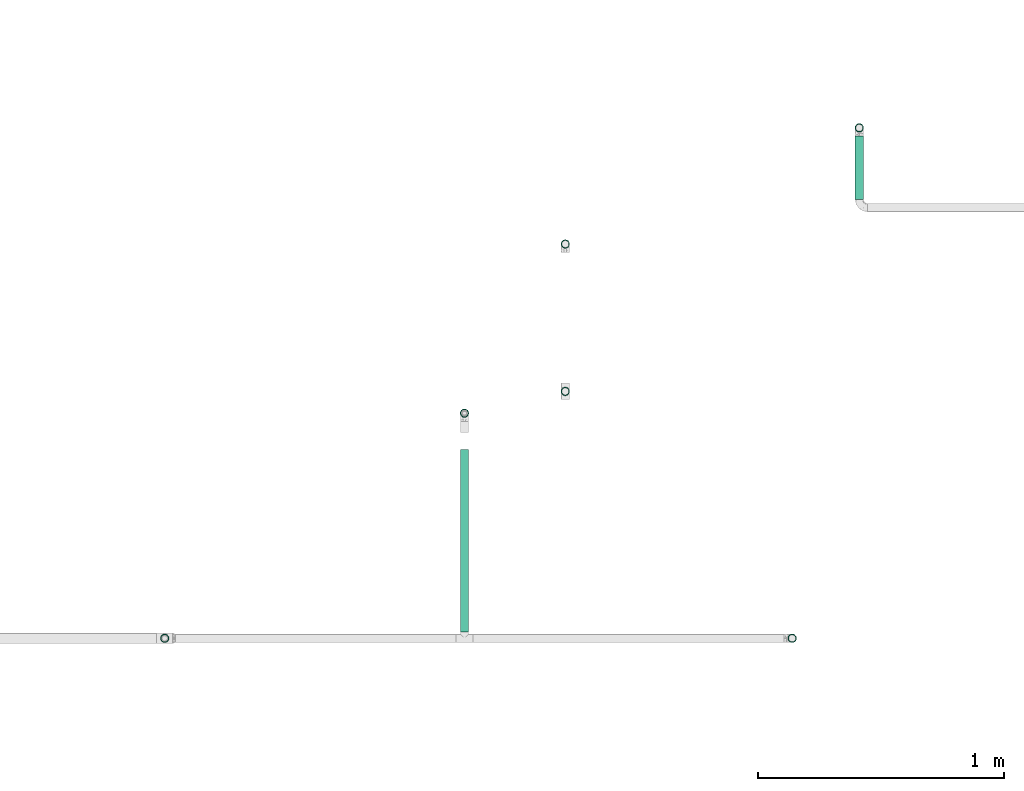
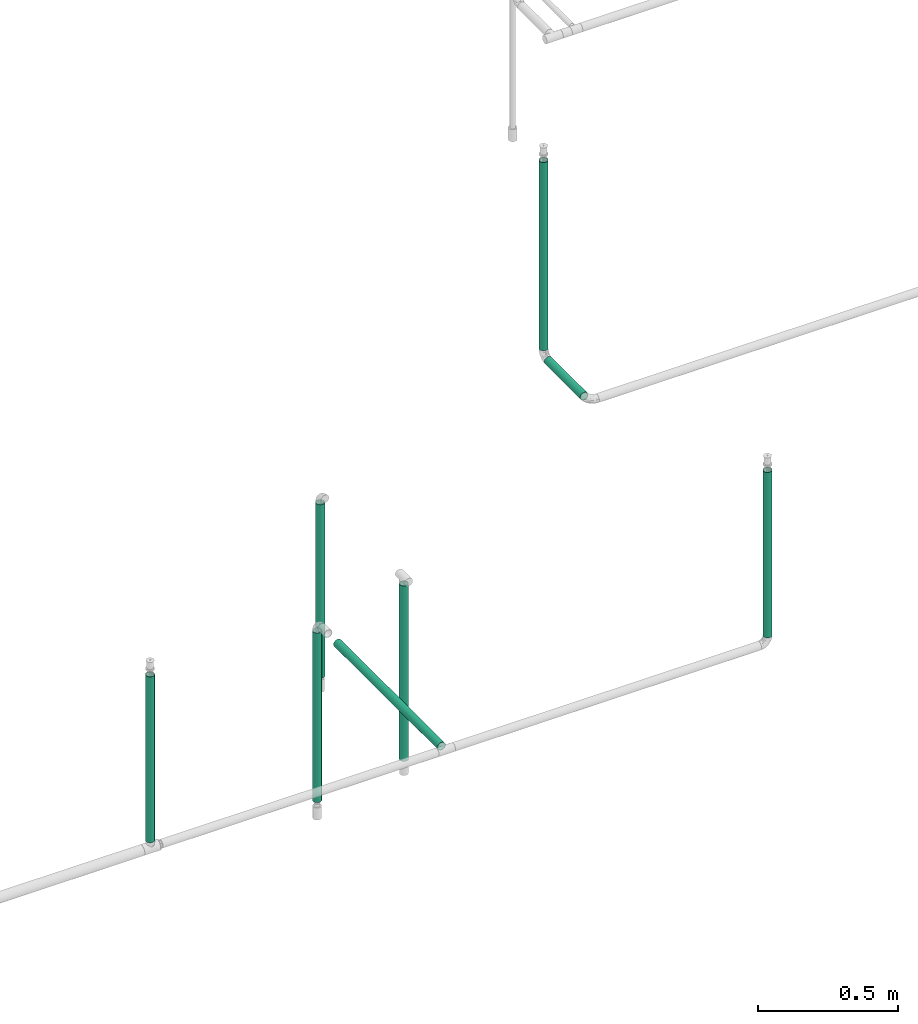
# One storey, part 12 of 94: 8 flow segments.
"""IFC2X3 building model written with IfcOpenShell, lengths in millimetres."""

from ifc_helpers import new_model, entity, si_unit, converted_unit, derived_unit, direction, frame, origin_with_axes, origin_2d_with_axis, place, context, subcontext, project, spatial, hollow_circle, extrude, source, transform, mapped, type_object, element, save


model = new_model("IFC2X3")

# Units and contexts
model_context = context("Model", 3, precision=0.01, world=frame((0.0, 4.29681676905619e-09, 0.0)), true_north=direction((4.01073788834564e-13, 1.0)))
plan_context = context("Plan", 3, precision=0.01, world=frame((0.0, 4.29681676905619e-09, 0.0)), true_north=direction((4.01073788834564e-13, 1.0)))
body_context = subcontext(model_context, "Body", "Model", "MODEL_VIEW")
ifc_project = project(units=[converted_unit("PLANEANGLEUNIT", "DEGREE", entity("IfcPositiveLengthMeasure", 0.0174532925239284), si_unit("PLANEANGLEUNIT", "RADIAN"), dimensions=[0, 0, 0, 0, 0, 0, 0]), si_unit("AREAUNIT", "SQUARE_METRE"), si_unit("LENGTHUNIT", "METRE", prefix="MILLI"), si_unit("MASSUNIT", "GRAM", prefix="KILO"), si_unit("POWERUNIT", "WATT"), si_unit("PRESSUREUNIT", "PASCAL", prefix="KILO"), si_unit("FORCEUNIT", "NEWTON", prefix="KILO"), si_unit("ELECTRICVOLTAGEUNIT", "VOLT"), si_unit("ELECTRICCURRENTUNIT", "AMPERE"), si_unit("THERMODYNAMICTEMPERATUREUNIT", "DEGREE_CELSIUS"), si_unit("TIMEUNIT", "SECOND"), si_unit("VOLUMEUNIT", "CUBIC_METRE"), derived_unit("LINEARVELOCITYUNIT", [(si_unit("LENGTHUNIT", "METRE"), 1), (si_unit("TIMEUNIT", "SECOND"), -1)]), derived_unit("VOLUMETRICFLOWRATEUNIT", [(si_unit("VOLUMEUNIT", "CUBIC_METRE"), 1), (si_unit("TIMEUNIT", "SECOND"), -1)]), derived_unit("THERMALTRANSMITTANCEUNIT", [(si_unit("POWERUNIT", "WATT"), 1), (si_unit("THERMODYNAMICTEMPERATUREUNIT", "KELVIN"), -1), (si_unit("AREAUNIT", "SQUARE_METRE"), -1)]), derived_unit("SOUNDPRESSUREUNIT", [(si_unit("PRESSUREUNIT", "PASCAL"), 1)])], contexts=[model_context, plan_context])

# Site, building, storey
site_placement = place(None, frame((0.0, -4.29681676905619e-09, 0.0), z_axis=(0.0, 0.0, 1.0), x_axis=(1.0, 0.0, 0.0)))
site = spatial("IfcSite", under=ifc_project, at=site_placement, CompositionType="ELEMENT")
building_placement = place(site_placement, frame((0.0, 4.29681676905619e-09, 0.0), z_axis=(0.0, 0.0, 1.0), x_axis=(1.0, 0.0, 0.0)))
building = spatial("IfcBuilding", under=site, at=building_placement, Name="mc-building", CompositionType="ELEMENT")
storey_placement = place(building_placement, frame((0.0, 0.0, 210900.0), z_axis=(0.0, 0.0, 1.0), x_axis=(1.0, 0.0, 0.0)))
storey = spatial("IfcBuildingStorey", under=building, at=storey_placement, Name="Nivå F", CompositionType="ELEMENT", Elevation=210900.0)

# Flow segments
pipe_segment_type = type_object("IfcPipeSegmentType", Name="Stålrør normaltykke", PredefinedType="RIGIDSEGMENT")
shared_shape_1 = source(origin_with_axes(), body_context, "Body", "SweptSolid", [
    extrude(hollow_circle(Radius=16.9, WallThickness=2.0, at=origin_2d_with_axis()), frame((0.0, 0.0, 0.0), z_axis=(1.0, 0.0, 0.0), x_axis=(0.0, 1.0, 0.0)), (0.0, 0.0, 1.0), 257.4),
])
flow_segment_1_placement = place(storey_placement, frame((726197.10222, 436981.86941, 3500.0), z_axis=(0.0, 0.0, 1.0), x_axis=(0.0, 1.0, 0.0)))
element("IfcFlowSegment", 1, at=flow_segment_1_placement, inside=storey, type_object=pipe_segment_type, Name="Stålrør normaltykke", context=body_context, shape_type="MappedRepresentation", body=[
    mapped(shared_shape_1, transform((0.0, 0.0, 0.0), scale=1.0)),
])
shared_shape_2 = source(origin_with_axes(), body_context, "Body", "SweptSolid", [
    extrude(hollow_circle(Radius=16.9, WallThickness=2.0, at=origin_2d_with_axis()), frame((0.0, 0.0, 0.0), z_axis=(1.0, 0.0, 0.0), x_axis=(0.0, 1.0, 0.0)), (0.0, 0.0, 1.0), 723.8),
])
flow_segment_2_placement = place(storey_placement, frame((725923.83068, 435194.37907, 3633.79999999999), z_axis=(-0.000893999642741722, -0.99999960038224, 0.0), x_axis=(0.0, 0.0, 1.0)))
element("IfcFlowSegment", 2, at=flow_segment_2_placement, inside=storey, type_object=pipe_segment_type, Name="Stålrør normaltykke", context=body_context, shape_type="MappedRepresentation", body=[
    mapped(shared_shape_2, transform((0.0, 0.0, 0.0), scale=1.0)),
])
shared_shape_3 = source(origin_with_axes(), body_context, "Body", "SweptSolid", [
    extrude(hollow_circle(Radius=16.9, WallThickness=2.0, at=origin_2d_with_axis()), frame((0.0, 0.0, 0.0), z_axis=(1.0, 0.0, 0.0), x_axis=(0.0, 1.0, 0.0)), (0.0, 0.0, 1.0), 725.8),
])
flow_segment_3_placement = place(storey_placement, frame((723368.83068, 435194.37907, 3631.79999999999), z_axis=(-0.000893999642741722, -0.99999960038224, 0.0), x_axis=(0.0, 0.0, 1.0)))
element("IfcFlowSegment", 3, at=flow_segment_3_placement, inside=storey, type_object=pipe_segment_type, Name="Stålrør normaltykke", context=body_context, shape_type="MappedRepresentation", body=[
    mapped(shared_shape_3, transform((0.0, 0.0, 0.0), scale=1.0)),
])
shared_shape_4 = source(origin_with_axes(), body_context, "Body", "SweptSolid", [
    extrude(hollow_circle(Radius=16.9, WallThickness=2.0, at=origin_2d_with_axis()), frame((0.0, 0.0, 0.0), z_axis=(1.0, 0.0, 0.0), x_axis=(0.0, 1.0, 0.0)), (0.0, 0.0, 1.0), 741.6),
])
flow_segment_4_placement = place(storey_placement, frame((724589.39723, 436111.22907, 3566.20000000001), z_axis=(-0.000893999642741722, -0.99999960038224, 0.0), x_axis=(0.0, 0.0, -1.0)))
element("IfcFlowSegment", 4, at=flow_segment_4_placement, inside=storey, type_object=pipe_segment_type, Name="Stålrør normaltykke", context=body_context, shape_type="MappedRepresentation", body=[
    mapped(shared_shape_4, transform((0.0, 0.0, 0.0), scale=1.0)),
])
shared_shape_5 = source(origin_with_axes(), body_context, "Body", "SweptSolid", [
    extrude(hollow_circle(Radius=16.9, WallThickness=2.0, at=origin_2d_with_axis()), frame((0.0, 0.0, 0.0), z_axis=(1.0, 0.0, 0.0), x_axis=(0.0, 1.0, 0.0)), (0.0, 0.0, 1.0), 823.8),
])
flow_segment_5_placement = place(storey_placement, frame((726197.10222, 437273.06941, 3533.79999999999), z_axis=(-0.000893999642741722, -0.99999960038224, 0.0), x_axis=(0.0, 0.0, 1.0)))
element("IfcFlowSegment", 5, at=flow_segment_5_placement, inside=storey, type_object=pipe_segment_type, Name="Stålrør normaltykke", context=body_context, shape_type="MappedRepresentation", body=[
    mapped(shared_shape_5, transform((0.0, 0.0, 0.0), scale=1.0, scale2=1.0, scale3=1.0, uniform=False)),
])
shared_shape_6 = source(origin_with_axes(), body_context, "Body", "SweptSolid", [
    extrude(hollow_circle(Radius=16.9, WallThickness=2.0, at=origin_2d_with_axis()), frame((0.0, 0.0, 0.0), z_axis=(1.0, 0.0, 0.0), x_axis=(0.0, 1.0, 0.0)), (0.0, 0.0, 1.0), 759.3),
])
flow_segment_6_placement = place(storey_placement, frame((725000.0, 436800.0, 2806.89074), z_axis=(0.0, 1.0, 0.0), x_axis=(0.0, 0.0, 1.0)))
element("IfcFlowSegment", 6, at=flow_segment_6_placement, inside=storey, type_object=pipe_segment_type, Name="Stålrør normaltykke", context=body_context, shape_type="MappedRepresentation", body=[
    mapped(shared_shape_6, transform((0.0, 0.0, 0.0), scale=1.0)),
])
shared_shape_7 = source(origin_with_axes(), body_context, "Body", "SweptSolid", [
    extrude(hollow_circle(Radius=16.9, WallThickness=2.0, at=origin_2d_with_axis()), frame((0.0, 0.0, 0.0), z_axis=(1.0, 0.0, 0.0), x_axis=(0.0, 1.0, 0.0)), (0.0, 0.0, 1.0), 744.5),
])
flow_segment_7_placement = place(storey_placement, frame((724589.39723, 435219.72907, 3600.0), z_axis=(0.0, 0.0, 1.0), x_axis=(0.0, 1.0, 0.0)))
element("IfcFlowSegment", 7, at=flow_segment_7_placement, inside=storey, type_object=pipe_segment_type, Name="Stålrør normaltykke", context=body_context, shape_type="MappedRepresentation", body=[
    mapped(shared_shape_7, transform((0.0, 0.0, 0.0), scale=1.0)),
])
shared_shape_8 = source(origin_with_axes(), body_context, "Body", "SweptSolid", [
    extrude(hollow_circle(Radius=16.9, WallThickness=2.0, at=origin_2d_with_axis()), frame((0.0, 0.0, 0.0), z_axis=(1.0, 0.0, 0.0), x_axis=(0.0, 1.0, 0.0)), (0.0, 0.0, 1.0), 767.8),
])
flow_segment_8_placement = place(storey_placement, frame((725000.0, 436200.0, 2806.89074), z_axis=(0.0, -1.0, 0.0), x_axis=(0.0, 0.0, 1.0)))
element("IfcFlowSegment", 8, at=flow_segment_8_placement, inside=storey, type_object=pipe_segment_type, Name="Stålrør normaltykke", context=body_context, shape_type="MappedRepresentation", body=[
    mapped(shared_shape_8, transform((0.0, 0.0, 0.0), scale=1.0)),
])

save(model, "model.ifc")
